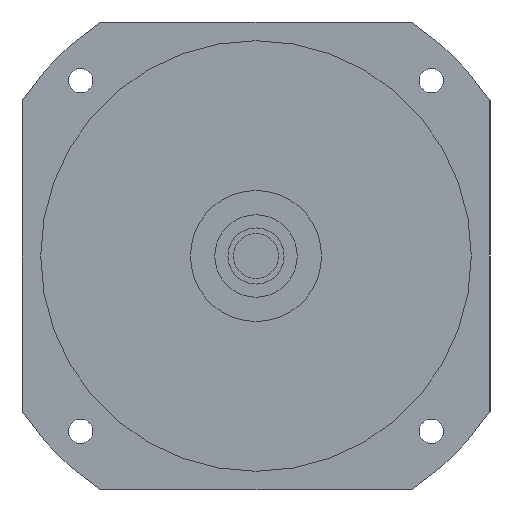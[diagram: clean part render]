
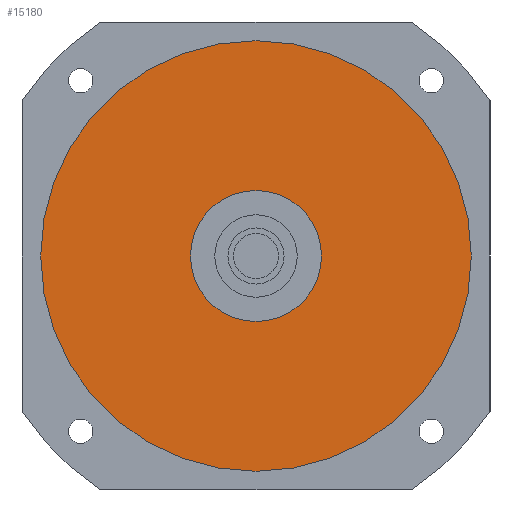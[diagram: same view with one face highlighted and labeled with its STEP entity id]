
A CAD part, left-side view. The second image highlights one B-rep face of the part: STEP entity #15180.
In plain terms, the highlighted planar face has unit normal (-1, 0, 0) as drawn and (0, 0, -1) by its records, which use the part's own axes.
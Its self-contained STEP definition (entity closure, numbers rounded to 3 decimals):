
#14600=CARTESIAN_POINT('',(115.,0.,-55.2));
#14610=VERTEX_POINT('',#14600);
#14700=CARTESIAN_POINT('',(-115.,0.,-55.2));
#14710=VERTEX_POINT('',#14700);
#14740=CARTESIAN_POINT('',(0.,0.,
-55.2));
#14750=DIRECTION('',(0.,0.,1.));
#14760=DIRECTION('',(0.,1.,0.));
#14770=AXIS2_PLACEMENT_3D('',#14740,#14750,#14760);
#14780=CIRCLE('',#14770,115.);
#14790=CARTESIAN_POINT('',(0.,115.,-55.2));
#14800=VERTEX_POINT('',#14790);
#14810=EDGE_CURVE('',#14800,#14710,#14780,.T.);
#14830=EDGE_CURVE('',#14610,#14800,#14780,.T.);
#14880=CARTESIAN_POINT('',(0.,0.,
-55.2));
#14890=DIRECTION('',(0.,0.,1.));
#14900=DIRECTION('',(-1.,0.,0.));
#14910=AXIS2_PLACEMENT_3D('',#14880,#14890,#14900);
#14920=PLANE('',#14910);
#14930=CARTESIAN_POINT('',(0.,0.,
-55.2));
#14940=DIRECTION('',(0.,0.,1.));
#14950=DIRECTION('',(0.,1.,0.));
#14960=AXIS2_PLACEMENT_3D('',#14930,#14940,#14950);
#14970=CIRCLE('',#14960,35.);
#14980=CARTESIAN_POINT('',(-35.,0.,-55.2));
#14990=VERTEX_POINT('',#14980);
#15000=CARTESIAN_POINT('',(35.,0.,-55.2));
#15010=VERTEX_POINT('',#15000);
#15020=EDGE_CURVE('',#14990,#15010,#14970,.T.);
#15030=ORIENTED_EDGE('',*,*,#15020,.T.);
#15040=CARTESIAN_POINT('',(0.,35.,-55.2));
#15050=VERTEX_POINT('',#15040);
#15060=EDGE_CURVE('',#15050,#14990,#14970,.T.);
#15070=ORIENTED_EDGE('',*,*,#15060,.T.);
#15080=EDGE_CURVE('',#15010,#15050,#14970,.T.);
#15090=ORIENTED_EDGE('',*,*,#15080,.T.);
#15100=EDGE_LOOP('',(#15090,#15070,#15030));
#15110=FACE_BOUND('',#15100,.T.);
#15120=ORIENTED_EDGE('',*,*,#14810,.F.);
#15130=EDGE_CURVE('',#14710,#14610,#14780,.T.);
#15140=ORIENTED_EDGE('',*,*,#15130,.F.);
#15150=ORIENTED_EDGE('',*,*,#14830,.F.);
#15160=EDGE_LOOP('',(#15150,#15140,#15120));
#15170=FACE_OUTER_BOUND('',#15160,.T.);
#15180=ADVANCED_FACE('',(#15110,#15170),#14920,.F.);
